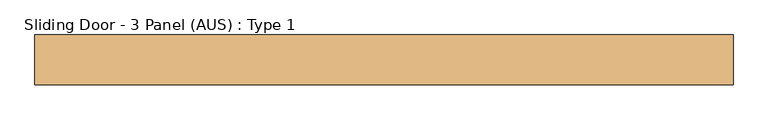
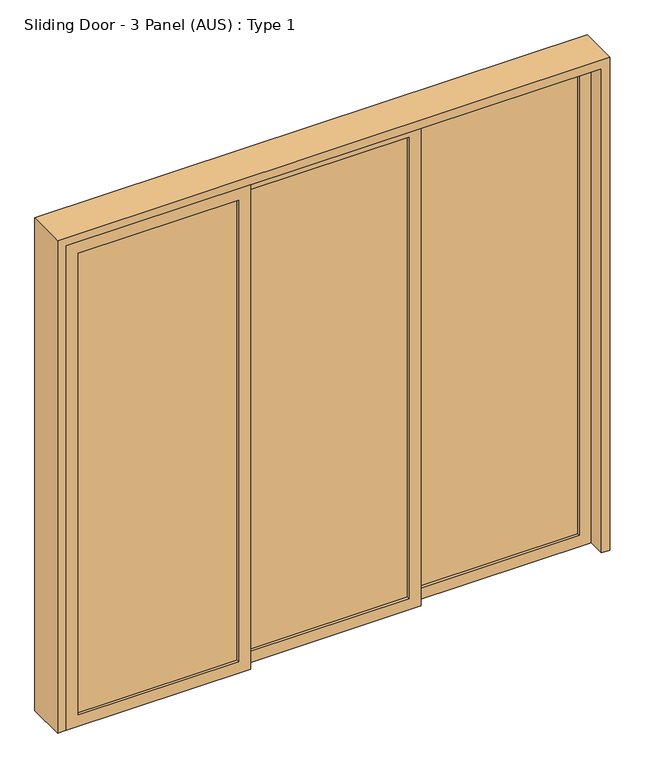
"""IFC4 building model written with IfcOpenShell, lengths in millimetres: door geometry, Sliding Door - 3 Panel (AUS) : Type 1."""

from ifc_helpers import new_model, si_unit, frame, origin, place, context, project, spatial, polyline, outline, extrude, source, transform, mapped, element, save


def sliding_door_3_panel_aus_type_1_135a2ec2(model_context):
    return source(origin(), model_context, "Body", "SweptSolid", [
        extrude(outline(polyline([(1255.7580012, 16.6666667), (1255.7580012, 3.3333333), (521.5913345, 3.3333333), (521.5913345, 16.6666667), (1255.7580012, 16.6666667)])), frame((0.0, 0.0, 55.0), z_axis=(0.0, 0.0, 1.0), x_axis=(1.0, 0.0, 0.0)), (0.0, 0.0, 1.0), 2233.0),
        extrude(outline(polyline([(0.0, 1310.7580012), (2343.0, 1310.7580012), (2343.0, 466.5913345), (0.0, 466.5913345), (0.0, 1310.7580012)]), holes=[polyline([(55.0, 1255.7580012), (55.0, 521.5913345), (2288.0, 521.5913345), (2288.0, 1255.7580012), (55.0, 1255.7580012)])]), frame((0.0, -10.0, 0.0), z_axis=(0.0, 1.0, 0.0), x_axis=(0.0, 0.0, 1.0)), (0.0, 0.0, 1.0), 40.0),
        extrude(outline(polyline([(453.2580012, -23.3333333), (453.2580012, -36.6666667), (-280.9086655, -36.6666667), (-280.9086655, -23.3333333), (453.2580012, -23.3333333)])), frame((0.0, 0.0, 55.0), z_axis=(0.0, 0.0, 1.0), x_axis=(1.0, 0.0, 0.0)), (0.0, 0.0, 1.0), 2233.0),
        extrude(outline(polyline([(0.0, 508.2580012), (2343.0, 508.2580012), (2343.0, -335.9086655), (0.0, -335.9086655), (0.0, 508.2580012)]), holes=[polyline([(55.0, 453.2580012), (55.0, -280.9086655), (2288.0, -280.9086655), (2288.0, 453.2580012), (55.0, 453.2580012)])]), frame((0.0, -50.0, 0.0), z_axis=(0.0, 1.0, 0.0), x_axis=(0.0, 0.0, 1.0)), (0.0, 0.0, 1.0), 40.0),
        extrude(outline(polyline([(-350.0753321, -63.3333333), (-350.0753321, -76.6666667), (-1084.2419988, -76.6666667), (-1084.2419988, -63.3333333), (-350.0753321, -63.3333333)])), frame((0.0, 0.0, 55.0), z_axis=(0.0, 0.0, 1.0), x_axis=(1.0, 0.0, 0.0)), (0.0, 0.0, 1.0), 2233.0),
        extrude(outline(polyline([(0.0, -295.0753321), (2343.0, -295.0753321), (2343.0, -1139.2419988), (0.0, -1139.2419988), (0.0, -295.0753321)]), holes=[polyline([(55.0, -350.0753321), (55.0, -1084.2419988), (2288.0, -1084.2419988), (2288.0, -350.0753321), (55.0, -350.0753321)])]), frame((0.0, -90.0, 0.0), z_axis=(0.0, 1.0, 0.0), x_axis=(0.0, 0.0, 1.0)), (0.0, 0.0, 1.0), 40.0),
        extrude(outline(polyline([(0.0, -1179.2419988), (0.0, -1139.2419988), (2343.0, -1139.2419988), (2343.0, 1310.7580012), (0.0, 1310.7580012), (0.0, 1350.7580012), (2383.0, 1350.7580012), (2383.0, -1179.2419988), (0.0, -1179.2419988)])), frame((0.0, -90.0, 0.0), z_axis=(0.0, 1.0, 0.0), x_axis=(0.0, 0.0, 1.0)), (0.0, 0.0, 1.0), 180.0),
    ])


if __name__ == "__main__":
    model = new_model("IFC4")
    model_context = context("Model", 3, world=origin())
    ifc_project = project(units=[si_unit("LENGTHUNIT", "METRE", prefix="MILLI")], contexts=[model_context])
    site = spatial("IfcSite", under=ifc_project)
    building = spatial("IfcBuilding", under=site)
    placement = place(None, origin())
    sliding_door_3_panel_aus_type_1_shape = sliding_door_3_panel_aus_type_1_135a2ec2(model_context)
    element("IfcDoor", 1, ObjectType="Sliding Door - 3 Panel (AUS) : Type 1", at=placement, inside=building, context=model_context, shape_type="MappedRepresentation", body=[
        mapped(sliding_door_3_panel_aus_type_1_shape, transform((0.0, 0.0, 0.0), x_axis=(1.0, 0.0, 0.0), y_axis=(0.0, 1.0, 0.0), z_axis=(0.0, 0.0, 1.0))),
    ])
    save(model, "model.ifc")
